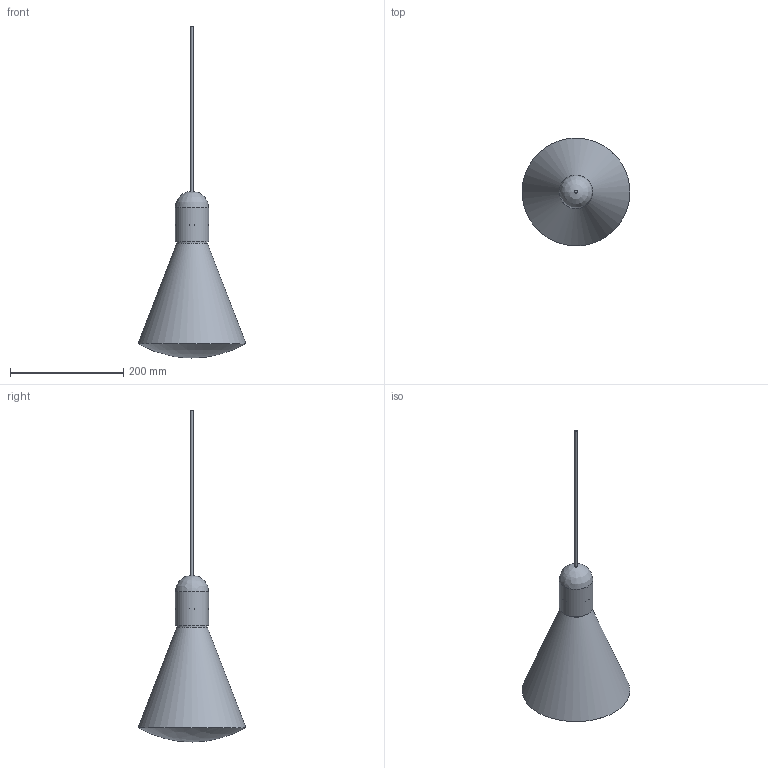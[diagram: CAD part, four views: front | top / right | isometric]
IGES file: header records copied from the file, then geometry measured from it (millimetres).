
Global section: file name: Niche - Flask Petite - Placebo Pendant; native system: unknown; preprocessor: unknown; author: unknown; organization: unknown; date: 20250109.103631; units: inch
Bounding box: 190.5 x 190.39 x 586.74 mm (x, y, z)
Volume: 270525.3 mm3; surface area: 258237.1 mm2
Topology: 5 solids, 5 shells, 100 faces, 273 edges, 182 vertices
Faces by surface type: bspline 100
